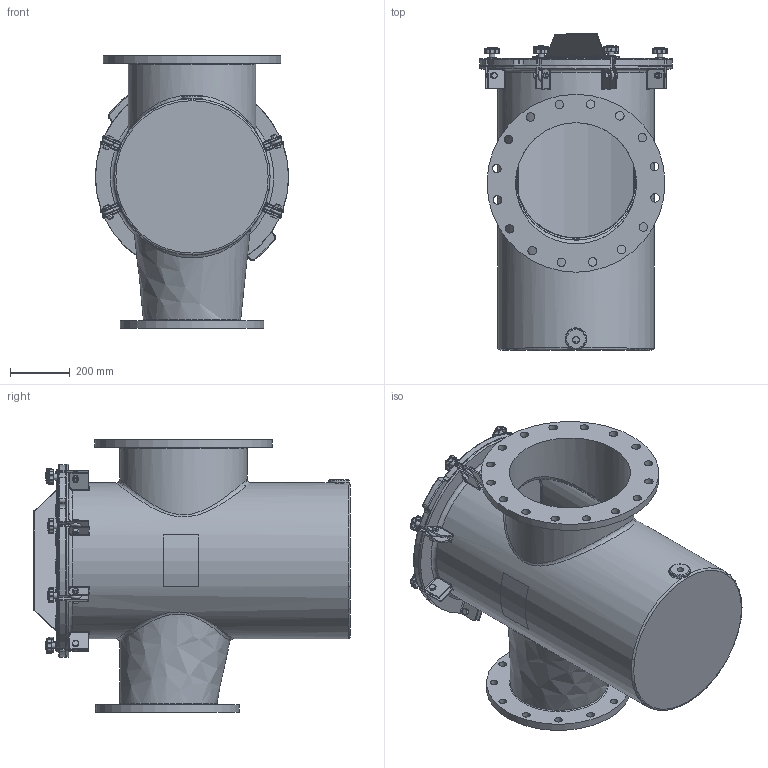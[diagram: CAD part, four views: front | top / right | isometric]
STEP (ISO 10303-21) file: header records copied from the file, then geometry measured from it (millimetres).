
FILE_DESCRIPTION(/* description */ ('STRAINER BODY'),/* implementation_level */ '2;1');
FILE_NAME(/* name */ 'Z:\Output\Strainers\11-14-2016\CAD\150NBFG62ER1.stp',/* time_stamp */ '2016-11-16T20:17:27+06:00',/* author */ ('20093558'),/* organization */ (''),/* preprocessor_version */ 'ST-DEVELOPER v16.1',/* originating_system */ 'Autodesk Inventor 2016',/* authorisation */ '');
FILE_SCHEMA (('AUTOMOTIVE_DESIGN { 1 0 10303 214 3 1 1 }'));
Length unit declared in the file: inch
Products named in the file (24): NBFG62EBODYR1; 150NBCVR22R2; 150NBGSK20R1; Perforated Basket 20in; Bride (Ring) 20in; Baffle 20in; Handle 20in; Bottom Strainer 20in; NBBSK16T316; BRACESTRCVR20_Welds; BRACE (BASE) FOR 20 BODY; BRACE (PROJ) FOR 20 BODY; Bumper; BRACESTRCVR20; Nut- 1_2  UNC; Bolt-1_2 x 1 1_2  UNC; EyeBolt; Washer; Knob M10; Securing Assembly For FG  with Brace; Securing Assembly For FG without Brace; Label for 20.625 inch (Right); Label for 20.625 inch (Left); Guardian FG Reducing H&L Strainer (Inch)
Assembly tree (39 placements, depth 3):
  Guardian FG Reducing H&L Strainer (Inch)
    NBFG62EBODYR1
    150NBCVR22R2
    150NBGSK20R1
    NBBSK16T316
      Perforated Basket 20in
      Bride (Ring) 20in
      Baffle 20in
      Handle 20in
      Bottom Strainer 20in
    BRACESTRCVR20
      BRACESTRCVR20_Welds
      BRACE (BASE) FOR 20 BODY
      BRACE (PROJ) FOR 20 BODY
      Bumper  x6
    Securing Assembly For FG  with Brace  x2
      Nut- 1_2  UNC
      Bolt-1_2 x 1 1_2  UNC
      EyeBolt
      Washer
      Knob M10
    Securing Assembly For FG without Brace  x6
      Nut- 1_2  UNC
      Bolt-1_2 x 1 1_2  UNC
      EyeBolt
      Washer
      Knob M10
    Label for 20.625 inch (Right)
    Label for 20.625 inch (Left)
Bounding box: 647.7 x 1060.45 x 914.4 mm (x, y, z)
Volume: 36101197.2 mm3; surface area: 8674294 mm2
Topology: 68 solids, 68 shells, 1851 faces, 4245 edges, 2518 vertices
Faces by surface type: cylinder 686, plane 515, cone 184, torus 170, sphere 158, bspline 138
Full cylindrical faces by diameter (mm): 3.175 x11, 6.35 x2, 8.382 x8, 9.525 x16, 10.592 x8, 12.7 x8, 15.875 x16, 19 x16, 19.05 x8, 22.809 x1, 25.4 x12, 28.575 x16, 31.75 x8, 68.263 x1, 403.225 x2, 406.4 x2, 408.94 x1, 428.625 x1, 482.6 x1, 508 x2, 511.175 x1, 514.35 x1, 523.875 x1, 577.85 x1, 584.2 x1, 596.9 x1
Entity records: 36209 total; most frequent: CARTESIAN_POINT 12264, DIRECTION 4915, ORIENTED_EDGE 4546, EDGE_CURVE 2273, AXIS2_PLACEMENT_3D 2000, VERTEX_POINT 1434, EDGE_LOOP 1237, ADVANCED_FACE 1001
